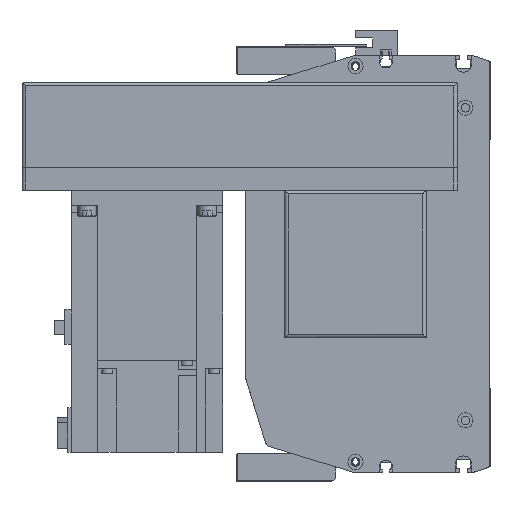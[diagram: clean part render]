
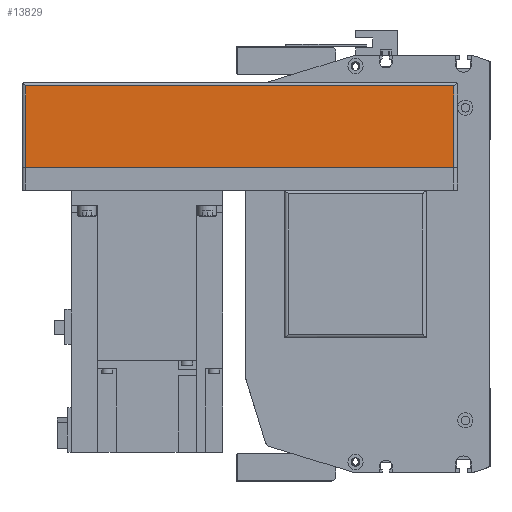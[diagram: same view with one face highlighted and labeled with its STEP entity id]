
A CAD part, left-side view. The second image highlights one B-rep face of the part: STEP entity #13829.
In plain terms, the highlighted planar face has unit normal (-1, 0, 0) as drawn and (0, 1, 0) by its records, which use the part's own axes.
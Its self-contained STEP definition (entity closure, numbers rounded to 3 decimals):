
#2364=ORIENTED_EDGE('',*,*,#5650,.F.);
#2365=ORIENTED_EDGE('',*,*,#5590,.T.);
#2366=ORIENTED_EDGE('',*,*,#5651,.F.);
#2367=ORIENTED_EDGE('',*,*,#5585,.F.);
#5585=EDGE_CURVE('',#7374,#7375,#8804,.T.);
#5590=EDGE_CURVE('',#7380,#7379,#8806,.T.);
#5650=EDGE_CURVE('',#7380,#7374,#8849,.T.);
#5651=EDGE_CURVE('',#7375,#7379,#8850,.T.);
#7374=VERTEX_POINT('',#21486);
#7375=VERTEX_POINT('',#21488);
#7379=VERTEX_POINT('',#21497);
#7380=VERTEX_POINT('',#21499);
#8804=LINE('',#21487,#10141);
#8806=LINE('',#21498,#10143);
#8849=LINE('',#21621,#10186);
#8850=LINE('',#21622,#10187);
#10141=VECTOR('',#17187,1000.);
#10143=VECTOR('',#17197,1000.);
#10186=VECTOR('',#17318,1000.);
#10187=VECTOR('',#17319,1000.);
#11332=EDGE_LOOP('',(#2364,#2365,#2366,#2367));
#12357=FACE_BOUND('',#11332,.T.);
#13220=PLANE('',#14846);
#13829=ADVANCED_FACE('',(#12357),#13220,.T.);
#14846=AXIS2_PLACEMENT_3D('',#21620,#17316,#17317);
#17187=DIRECTION('',(0.,0.,1.));
#17197=DIRECTION('',(0.,0.,1.));
#17316=DIRECTION('',(0.,1.,0.));
#17317=DIRECTION('',(0.,0.,1.));
#17318=DIRECTION('',(1.,0.,0.));
#17319=DIRECTION('',(-1.,0.,0.));
#21486=CARTESIAN_POINT('',(-2.,54.,-55.));
#21487=CARTESIAN_POINT('',(-2.,54.,-57.));
#21488=CARTESIAN_POINT('',(-2.,54.,-12.));
#21497=CARTESIAN_POINT('',(-228.,54.,-12.));
#21498=CARTESIAN_POINT('',(-228.,54.,-57.));
#21499=CARTESIAN_POINT('',(-228.,54.,-55.));
#21620=CARTESIAN_POINT('',(-2.,54.,-57.));
#21621=CARTESIAN_POINT('',(-230.,54.,-55.));
#21622=CARTESIAN_POINT('',(-2.,54.,-12.));
